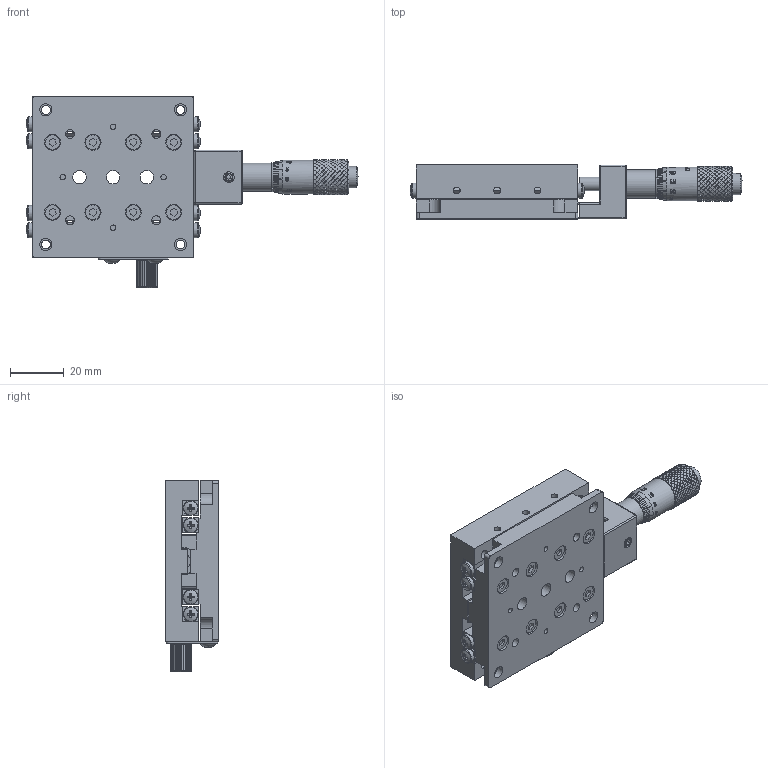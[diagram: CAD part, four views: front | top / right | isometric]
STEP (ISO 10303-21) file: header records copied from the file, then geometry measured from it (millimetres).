
FILE_DESCRIPTION (( 'STEP AP203' ), '1' );
FILE_NAME ('TCJ60X-05.step', '2017-01-10T09:13:37', ( '¦K¬P' ), ( '' ), 'SwSTEP 2.0', 'SolidWorks 2012', '' );
FILE_SCHEMA (( 'CONFIG_CONTROL_DESIGN' ));
Products named in the file (1): TCJ60X-05
Bounding box: 123.32 x 20 x 71 mm (x, y, z)
Surface area: 32912 mm2 (no closed solid volume)
Topology: 0 solids, 90 shells, 1930 faces, 6796 edges, 4790 vertices
Faces by surface type: bspline 831, cylinder 622, plane 439, sphere 19, torus 10, cone 9
Full cylindrical faces by diameter (mm): 1.4 x1, 2 x8, 2.5 x12, 3 x1, 3.3 x12, 4 x1, 4.5 x4, 5 x10, 5.4 x8, 5.6 x8, 6 x16, 8 x1, 10 x1, 10.6 x1, 12.5 x1, 15 x1
Entity records: 157835 total; most frequent: CARTESIAN_POINT 113795, ORIENTED_EDGE 11417, EDGE_CURVE 6661, DIRECTION 5389, VERTEX_POINT 4770, B_SPLINE_CURVE_WITH_KNOTS 2319, EDGE_LOOP 2246, FACE_OUTER_BOUND 2019
